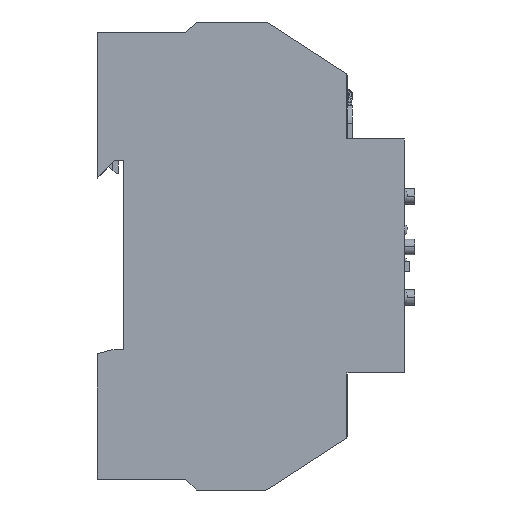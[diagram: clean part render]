
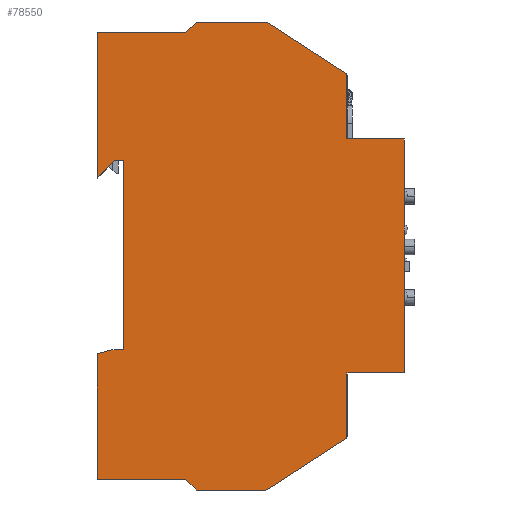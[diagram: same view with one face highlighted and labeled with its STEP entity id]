
A CAD part, left-side view. The second image highlights one B-rep face of the part: STEP entity #78550.
In plain terms, the highlighted planar face has unit normal (-1, 0, 0).
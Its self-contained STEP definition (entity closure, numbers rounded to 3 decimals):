
#22189=CARTESIAN_POINT('',(-36.0,-24.,79.728));
#22190=VERTEX_POINT('',#22189);
#22197=CARTESIAN_POINT('',(-36.,-24.,67.5));
#22198=VERTEX_POINT('',#22197);
#22199=CARTESIAN_POINT('',(-36.,-24.,67.5));
#22200=DIRECTION('',(0.0,0.0,1.0));
#22201=VECTOR('',#22200,12.228);
#22202=LINE('',#22199,#22201);
#22203=EDGE_CURVE('',#22198,#22190,#22202,.T.);
#26524=CARTESIAN_POINT('',(-36.,-35.,67.5));
#26525=VERTEX_POINT('',#26524);
#26526=CARTESIAN_POINT('',(-36.,-24.,67.5));
#26527=DIRECTION('',(0.0,-1.0,0.0));
#26528=VECTOR('',#26527,11.);
#26529=LINE('',#26526,#26528);
#26530=EDGE_CURVE('',#22198,#26525,#26529,.T.);
#70779=CARTESIAN_POINT('',(-36.0,19.,27.0));
#70780=VERTEX_POINT('',#70779);
#70787=CARTESIAN_POINT('',(-36.0,19.,63.367));
#70788=VERTEX_POINT('',#70787);
#70789=CARTESIAN_POINT('',(-36.0,19.,63.367));
#70790=DIRECTION('',(0.0,0.0,-1.0));
#70791=VECTOR('',#70790,36.367);
#70792=LINE('',#70789,#70791);
#70793=EDGE_CURVE('',#70788,#70780,#70792,.T.);
#71082=CARTESIAN_POINT('',(-36.0,24.,2.));
#71083=VERTEX_POINT('',#71082);
#71090=CARTESIAN_POINT('',(-36.0,24.,26.196));
#71091=VERTEX_POINT('',#71090);
#71092=CARTESIAN_POINT('',(-36.0,24.,2.));
#71093=DIRECTION('',(0.0,0.0,1.0));
#71094=VECTOR('',#71093,24.196);
#71095=LINE('',#71092,#71094);
#71096=EDGE_CURVE('',#71083,#71091,#71095,.T.);
#71801=CARTESIAN_POINT('',(-36.0,24.,88.0));
#71802=VERTEX_POINT('',#71801);
#71809=CARTESIAN_POINT('',(-36.0,7.,88.0));
#71810=VERTEX_POINT('',#71809);
#71811=CARTESIAN_POINT('',(-36.0,7.,88.0));
#71812=DIRECTION('',(0.0,1.0,0.0));
#71813=VECTOR('',#71812,17.);
#71814=LINE('',#71811,#71813);
#71815=EDGE_CURVE('',#71810,#71802,#71814,.T.);
#71986=CARTESIAN_POINT('',(-36.0,24.,60.));
#71987=VERTEX_POINT('',#71986);
#71994=CARTESIAN_POINT('',(-36.0,24.,60.));
#71995=DIRECTION('',(0.0,0.0,1.0));
#71996=VECTOR('',#71995,28.);
#71997=LINE('',#71994,#71996);
#71998=EDGE_CURVE('',#71987,#71802,#71997,.T.);
#72016=CARTESIAN_POINT('',(-36.0,21.,27.0));
#72017=VERTEX_POINT('',#72016);
#72018=CARTESIAN_POINT('',(-36.0,21.,27.0));
#72019=DIRECTION('',(0.0,0.966,-0.259));
#72020=VECTOR('',#72019,3.106);
#72021=LINE('',#72018,#72020);
#72022=EDGE_CURVE('',#72017,#71091,#72021,.T.);
#72064=CARTESIAN_POINT('',(-36.0,19.,27.0));
#72065=DIRECTION('',(0.0,1.0,0.0));
#72066=VECTOR('',#72065,2.);
#72067=LINE('',#72064,#72066);
#72068=EDGE_CURVE('',#70780,#72017,#72067,.T.);
#72099=CARTESIAN_POINT('',(-36.0,20.633,63.367));
#72100=VERTEX_POINT('',#72099);
#72107=CARTESIAN_POINT('',(-36.0,24.,60.));
#72108=DIRECTION('',(0.0,-0.707,0.707));
#72109=VECTOR('',#72108,4.762);
#72110=LINE('',#72107,#72109);
#72111=EDGE_CURVE('',#71987,#72100,#72110,.T.);
#72124=CARTESIAN_POINT('',(-36.0,20.633,63.367));
#72125=DIRECTION('',(0.0,-1.0,0.0));
#72126=VECTOR('',#72125,1.633);
#72127=LINE('',#72124,#72126);
#72128=EDGE_CURVE('',#72100,#70788,#72127,.T.);
#72367=CARTESIAN_POINT('',(-36.0,7.,2.));
#72368=VERTEX_POINT('',#72367);
#72375=CARTESIAN_POINT('',(-36.0,24.,2.));
#72376=DIRECTION('',(0.0,-1.0,0.0));
#72377=VECTOR('',#72376,17.);
#72378=LINE('',#72375,#72377);
#72379=EDGE_CURVE('',#71083,#72368,#72378,.T.);
#73026=CARTESIAN_POINT('',(-36.0,-24.,22.5));
#73027=VERTEX_POINT('',#73026);
#73034=CARTESIAN_POINT('',(-36.0,-24.,10.272));
#73035=VERTEX_POINT('',#73034);
#73036=CARTESIAN_POINT('',(-36.0,-24.,10.272));
#73037=DIRECTION('',(0.0,0.0,1.0));
#73038=VECTOR('',#73037,12.228);
#73039=LINE('',#73036,#73038);
#73040=EDGE_CURVE('',#73035,#73027,#73039,.T.);
#77704=CARTESIAN_POINT('',(-36.0,-8.353,0.));
#77705=VERTEX_POINT('',#77704);
#77712=CARTESIAN_POINT('',(-36.0,5.0,0.0));
#77713=VERTEX_POINT('',#77712);
#77714=CARTESIAN_POINT('',(-36.0,-8.353,0.));
#77715=DIRECTION('',(0.0,1.0,0.0));
#77716=VECTOR('',#77715,13.353);
#77717=LINE('',#77714,#77716);
#77718=EDGE_CURVE('',#77705,#77713,#77717,.T.);
#77735=CARTESIAN_POINT('',(-36.0,-23.771,9.852));
#77736=VERTEX_POINT('',#77735);
#77743=CARTESIAN_POINT('',(-36.0,-8.624,0.08));
#77744=VERTEX_POINT('',#77743);
#77745=CARTESIAN_POINT('',(-36.0,-8.624,0.08));
#77746=DIRECTION('',(0.0,-0.84,0.542));
#77747=VECTOR('',#77746,18.026);
#77748=LINE('',#77745,#77747);
#77749=EDGE_CURVE('',#77744,#77736,#77748,.T.);
#77785=CARTESIAN_POINT('',(-36.0,-8.353,0.5));
#77786=DIRECTION('',(-1.0,0.0,0.0));
#77787=DIRECTION('',(0.0,0.542,0.84));
#77788=AXIS2_PLACEMENT_3D('',#77785,#77786,#77787);
#77789=CIRCLE('',#77788,0.5);
#77790=EDGE_CURVE('',#77705,#77744,#77789,.T.);
#77899=CARTESIAN_POINT('',(-36.0,-23.5,10.272));
#77900=DIRECTION('',(-1.0,0.0,0.0));
#77901=DIRECTION('',(0.0,1.0,0.0));
#77902=AXIS2_PLACEMENT_3D('',#77899,#77900,#77901);
#77903=CIRCLE('',#77902,0.5);
#77904=EDGE_CURVE('',#77736,#73035,#77903,.T.);
#78061=CARTESIAN_POINT('',(-36.0,-8.624,89.92));
#78062=VERTEX_POINT('',#78061);
#78069=CARTESIAN_POINT('',(-36.0,-23.771,80.148));
#78070=VERTEX_POINT('',#78069);
#78071=CARTESIAN_POINT('',(-36.0,-23.771,80.148));
#78072=DIRECTION('',(0.0,0.84,0.542));
#78073=VECTOR('',#78072,18.026);
#78074=LINE('',#78071,#78073);
#78075=EDGE_CURVE('',#78070,#78062,#78074,.T.);
#78092=CARTESIAN_POINT('',(-36.0,-8.353,90.0));
#78093=VERTEX_POINT('',#78092);
#78100=CARTESIAN_POINT('',(-36.0,-8.353,89.5));
#78101=DIRECTION('',(-1.0,0.0,0.0));
#78102=DIRECTION('',(0.0,0.,-1.0));
#78103=AXIS2_PLACEMENT_3D('',#78100,#78101,#78102);
#78104=CIRCLE('',#78103,0.5);
#78105=EDGE_CURVE('',#78062,#78093,#78104,.T.);
#78117=CARTESIAN_POINT('',(-36.0,5.0,90.0));
#78118=VERTEX_POINT('',#78117);
#78125=CARTESIAN_POINT('',(-36.0,-8.353,90.0));
#78126=DIRECTION('',(0.0,1.0,0.0));
#78127=VECTOR('',#78126,13.353);
#78128=LINE('',#78125,#78127);
#78129=EDGE_CURVE('',#78093,#78118,#78128,.T.);
#78142=CARTESIAN_POINT('',(-36.0,5.0,90.0));
#78143=DIRECTION('',(0.0,0.707,-0.707));
#78144=VECTOR('',#78143,2.828);
#78145=LINE('',#78142,#78144);
#78146=EDGE_CURVE('',#78118,#71810,#78145,.T.);
#78259=CARTESIAN_POINT('',(-36.0,7.,2.));
#78260=DIRECTION('',(0.0,-0.707,-0.707));
#78261=VECTOR('',#78260,2.828);
#78262=LINE('',#78259,#78261);
#78263=EDGE_CURVE('',#72368,#77713,#78262,.T.);
#78276=CARTESIAN_POINT('',(-36.0,-23.5,79.728));
#78277=DIRECTION('',(-1.,0.0,0.0));
#78278=DIRECTION('',(0.0,0.542,-0.84));
#78279=AXIS2_PLACEMENT_3D('',#78276,#78277,#78278);
#78280=CIRCLE('',#78279,0.5);
#78281=EDGE_CURVE('',#22190,#78070,#78280,.T.);
#78417=CARTESIAN_POINT('',(-36.0,-35.,22.5));
#78418=VERTEX_POINT('',#78417);
#78425=CARTESIAN_POINT('',(-36.0,-24.,22.5));
#78426=DIRECTION('',(0.0,-1.0,0.0));
#78427=VECTOR('',#78426,11.);
#78428=LINE('',#78425,#78427);
#78429=EDGE_CURVE('',#73027,#78418,#78428,.T.);
#78443=CARTESIAN_POINT('',(-36.0,-35.,22.5));
#78444=DIRECTION('',(0.0,0.0,1.0));
#78445=VECTOR('',#78444,45.0);
#78446=LINE('',#78443,#78445);
#78447=EDGE_CURVE('',#78418,#26525,#78446,.T.);
#78519=CARTESIAN_POINT('',(-36.0,-24.,0.0));
#78520=DIRECTION('',(-1.0,0.0,0.0));
#78521=DIRECTION('',(0.0,0.0,1.0));
#78522=AXIS2_PLACEMENT_3D('',#78519,#78520,#78521);
#78523=PLANE('',#78522);
#78524=ORIENTED_EDGE('',*,*,#77904,.T.);
#78525=ORIENTED_EDGE('',*,*,#73040,.T.);
#78526=ORIENTED_EDGE('',*,*,#78429,.T.);
#78527=ORIENTED_EDGE('',*,*,#78447,.T.);
#78528=ORIENTED_EDGE('',*,*,#26530,.F.);
#78529=ORIENTED_EDGE('',*,*,#22203,.T.);
#78530=ORIENTED_EDGE('',*,*,#78281,.T.);
#78531=ORIENTED_EDGE('',*,*,#78075,.T.);
#78532=ORIENTED_EDGE('',*,*,#78105,.T.);
#78533=ORIENTED_EDGE('',*,*,#78129,.T.);
#78534=ORIENTED_EDGE('',*,*,#78146,.T.);
#78535=ORIENTED_EDGE('',*,*,#71815,.T.);
#78536=ORIENTED_EDGE('',*,*,#71998,.F.);
#78537=ORIENTED_EDGE('',*,*,#72111,.T.);
#78538=ORIENTED_EDGE('',*,*,#72128,.T.);
#78539=ORIENTED_EDGE('',*,*,#70793,.T.);
#78540=ORIENTED_EDGE('',*,*,#72068,.T.);
#78541=ORIENTED_EDGE('',*,*,#72022,.T.);
#78542=ORIENTED_EDGE('',*,*,#71096,.F.);
#78543=ORIENTED_EDGE('',*,*,#72379,.T.);
#78544=ORIENTED_EDGE('',*,*,#78263,.T.);
#78545=ORIENTED_EDGE('',*,*,#77718,.F.);
#78546=ORIENTED_EDGE('',*,*,#77790,.T.);
#78547=ORIENTED_EDGE('',*,*,#77749,.T.);
#78548=EDGE_LOOP('',(#78524,#78525,#78526,#78527,#78528,#78529,#78530,#78531,#78532,#78533,#78534,#78535,#78536,#78537,#78538,#78539,#78540,#78541,#78542,#78543,#78544,#78545,#78546,#78547));
#78549=FACE_OUTER_BOUND('',#78548,.T.);
#78550=ADVANCED_FACE('',(#78549),#78523,.T.);
